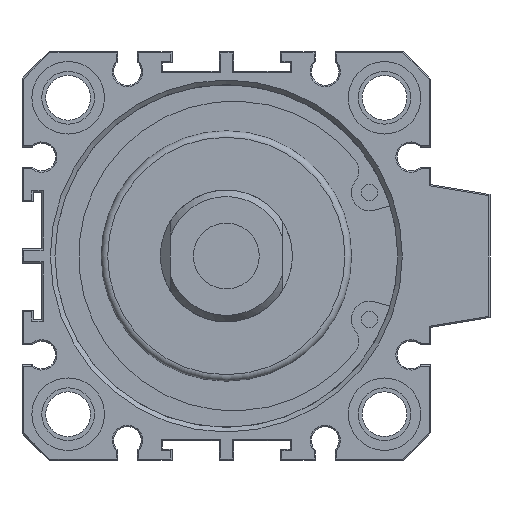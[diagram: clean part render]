
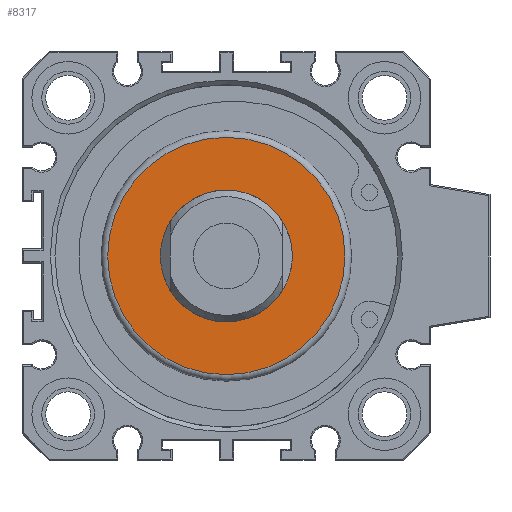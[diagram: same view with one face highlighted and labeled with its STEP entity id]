
A CAD part, front view. The second image highlights one B-rep face of the part: STEP entity #8317.
In plain terms, the highlighted planar face has unit normal (0, -1, 0).
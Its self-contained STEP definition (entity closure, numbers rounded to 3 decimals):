
#305=CIRCLE('',#8849,18.);
#311=CIRCLE('',#8862,10.);
#1067=ORIENTED_EDGE('',*,*,#2455,.F.);
#1068=ORIENTED_EDGE('',*,*,#2468,.T.);
#2455=EDGE_CURVE('',#3133,#3133,#305,.T.);
#2468=EDGE_CURVE('',#3141,#3141,#311,.T.);
#3133=VERTEX_POINT('',#11947);
#3141=VERTEX_POINT('',#11980);
#4542=EDGE_LOOP('',(#1067));
#4543=EDGE_LOOP('',(#1068));
#4998=FACE_BOUND('',#4542,.T.);
#4999=FACE_BOUND('',#4543,.T.);
#5335=PLANE('',#8861);
#8317=ADVANCED_FACE('',(#4998,#4999),#5335,.F.);
#8849=AXIS2_PLACEMENT_3D('',#11946,#10099,#10100);
#8861=AXIS2_PLACEMENT_3D('',#11978,#10127,#10128);
#8862=AXIS2_PLACEMENT_3D('',#11979,#10129,#10130);
#10099=DIRECTION('',(0.,1.,0.));
#10100=DIRECTION('',(-1.,0.,0.));
#10127=DIRECTION('',(0.,1.,0.));
#10128=DIRECTION('',(-1.,0.,0.));
#10129=DIRECTION('',(0.,1.,0.));
#10130=DIRECTION('',(-1.,0.,0.));
#11946=CARTESIAN_POINT('',(0.,-4.,0.));
#11947=CARTESIAN_POINT('',(-18.,-4.,0.));
#11978=CARTESIAN_POINT('',(0.,-4.,-10.));
#11979=CARTESIAN_POINT('',(0.,-4.,0.));
#11980=CARTESIAN_POINT('',(-10.,-4.,0.));
